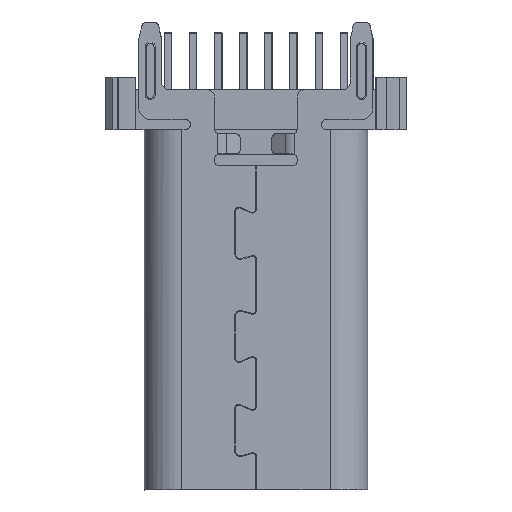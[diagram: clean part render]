
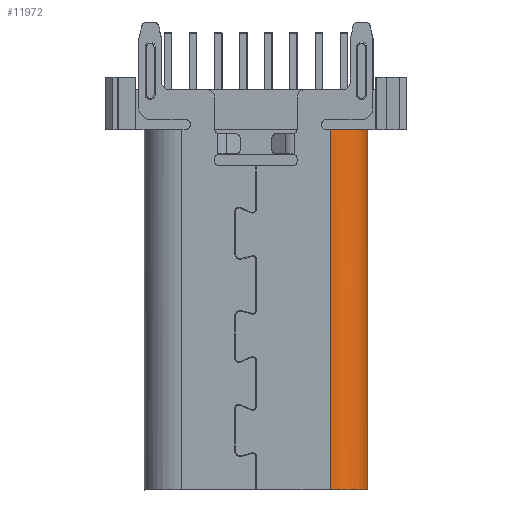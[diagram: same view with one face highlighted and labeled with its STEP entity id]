
A CAD part, front view. The second image highlights one B-rep face of the part: STEP entity #11972.
In plain terms, the highlighted cylindrical face has radius 1.5 mm (diameter 3 mm), a partial arc.
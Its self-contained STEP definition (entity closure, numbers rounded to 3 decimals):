
#2291=CARTESIAN_POINT('',(8.666,-0.084,
-18.5));
#2292=DIRECTION('',(0.,0.,1.));
#2293=DIRECTION('',(-0.002,-1.,0.));
#2294=AXIS2_PLACEMENT_3D('',#2291,#2292,#2293);
#2347=DIRECTION('',(0.,0.,1.));
#2348=VECTOR('',#2347,8.);
#2349=CARTESIAN_POINT('',(8.662,-1.584,
-18.5));
#2350=LINE('',#2349,#2348);
#2351=DIRECTION('',(0.,0.,1.));
#2352=VECTOR('',#2351,6.4);
#2353=CARTESIAN_POINT('',(8.662,-1.584,
-10.5));
#2354=LINE('',#2353,#2352);
#2355=DIRECTION('',(0.,0.,-1.));
#2356=VECTOR('',#2355,8.);
#2357=CARTESIAN_POINT('',(10.166,-0.088,
-10.5));
#2358=LINE('',#2357,#2356);
#2363=CARTESIAN_POINT('',(8.665,-0.084,
-4.1));
#2364=DIRECTION('',(0.,0.,-1.));
#2365=DIRECTION('',(0.616,-0.788,0.));
#2366=AXIS2_PLACEMENT_3D('',#2363,#2364,#2365);
#3654=CARTESIAN_POINT('',(8.665,-0.084,
-4.1));
#3655=DIRECTION('',(0.,0.,-1.));
#3656=DIRECTION('',(1.,-0.002,0.));
#3657=AXIS2_PLACEMENT_3D('',#3654,#3655,#3656);
#5573=DIRECTION('',(0.,0.,1.));
#5574=VECTOR('',#5573,6.4);
#5575=CARTESIAN_POINT('',(10.166,-0.088,
-10.5));
#5576=LINE('',#5575,#5574);
#7464=CARTESIAN_POINT('',(8.662,-1.584,
-18.5));
#7465=CARTESIAN_POINT('',(10.166,-0.088,
-18.5));
#7466=VERTEX_POINT('',#7464);
#7467=VERTEX_POINT('',#7465);
#7839=CARTESIAN_POINT('',(9.589,-1.266,
-4.1));
#7841=VERTEX_POINT('',#7839);
#7978=CARTESIAN_POINT('',(10.165,-0.088,
-4.1));
#7979=VERTEX_POINT('',#7978);
#8016=CARTESIAN_POINT('',(8.662,-1.584,
-4.1));
#8017=VERTEX_POINT('',#8016);
#8755=CARTESIAN_POINT('',(10.166,-0.088,
-10.5));
#8756=VERTEX_POINT('',#8755);
#8757=CARTESIAN_POINT('',(8.662,-1.584,
-10.5));
#8758=VERTEX_POINT('',#8757);
#11954=CARTESIAN_POINT('',(8.666,-0.084,
-18.66));
#11955=DIRECTION('',(0.,0.,1.));
#11956=DIRECTION('',(-0.002,-1.,0.));
#11957=AXIS2_PLACEMENT_3D('',#11954,#11955,#11956);
#11958=CYLINDRICAL_SURFACE('',#11957,1.5);
#11959=ORIENTED_EDGE('',*,*,#11201,.T.);
#11960=ORIENTED_EDGE('',*,*,#11199,.T.);
#11962=ORIENTED_EDGE('',*,*,#11961,.F.);
#11964=ORIENTED_EDGE('',*,*,#11963,.F.);
#11966=ORIENTED_EDGE('',*,*,#11965,.F.);
#11968=ORIENTED_EDGE('',*,*,#11967,.T.);
#11969=ORIENTED_EDGE('',*,*,#11919,.F.);
#11970=EDGE_LOOP('',(#11959,#11960,#11962,#11964,#11966,#11968,#11969));
#11971=FACE_OUTER_BOUND('',#11970,.F.);
#2295=CIRCLE('',#2294,1.5);
#2367=CIRCLE('',#2366,1.5);
#3658=CIRCLE('',#3657,1.5);
#11199=EDGE_CURVE('',#8758,#8017,#2354,.T.);
#11201=EDGE_CURVE('',#7466,#8758,#2350,.T.);
#11919=EDGE_CURVE('',#7466,#7467,#2295,.T.);
#11961=EDGE_CURVE('',#7841,#8017,#2367,.T.);
#11963=EDGE_CURVE('',#7979,#7841,#3658,.T.);
#11965=EDGE_CURVE('',#8756,#7979,#5576,.T.);
#11967=EDGE_CURVE('',#8756,#7467,#2358,.T.);
#11972=ADVANCED_FACE('',(#11971),#11958,.T.);
